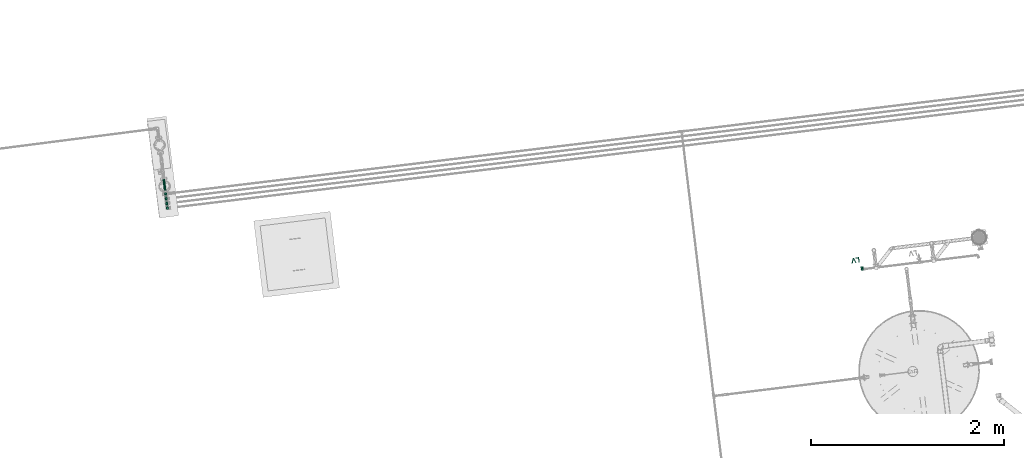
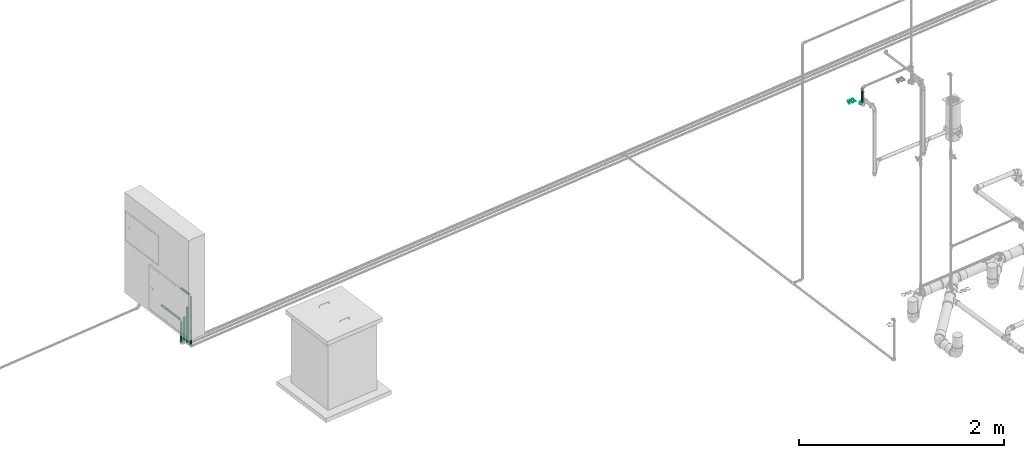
# One storey, part 49 of 97: 7 flow segments, 1 flow terminal.
"""IFC2X3 building model written with IfcOpenShell, lengths in centimetres."""

from ifc_helpers import new_model, entity, si_unit, converted_unit, derived_unit, direction, frame, frame_2d, origin, origin_2d_with_axis, place, context, subcontext, project, spatial, polyline, circle, outline, extrude, source, transform, mapped, material, material_list, type_object, type_shapes, element, save


model = new_model("IFC2X3")

# Units and contexts
model_context = context("Model", 3, precision=0.001, world=origin(), true_north=direction((6.12303176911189e-17, 1.0)))
body_context = subcontext(model_context, "Body", "Model", "MODEL_VIEW")
ifc_project = project(units=[si_unit("LENGTHUNIT", "METRE", prefix="CENTI"), si_unit("AREAUNIT", "SQUARE_METRE"), si_unit("VOLUMEUNIT", "CUBIC_METRE"), converted_unit("PLANEANGLEUNIT", "DEGREE", entity("IfcRatioMeasure", 0.0174532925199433), si_unit("PLANEANGLEUNIT", "RADIAN"), dimensions=[0, 0, 0, 0, 0, 0, 0]), si_unit("MASSUNIT", "GRAM", prefix="KILO"), derived_unit("MASSDENSITYUNIT", [(si_unit("MASSUNIT", "GRAM", prefix="KILO"), 1), (si_unit("LENGTHUNIT", "METRE"), -3)]), derived_unit("MOMENTOFINERTIAUNIT", [(si_unit("LENGTHUNIT", "METRE"), 4)]), si_unit("TIMEUNIT", "SECOND"), si_unit("FREQUENCYUNIT", "HERTZ"), si_unit("THERMODYNAMICTEMPERATUREUNIT", "DEGREE_CELSIUS"), derived_unit("THERMALTRANSMITTANCEUNIT", [(si_unit("MASSUNIT", "GRAM", prefix="KILO"), 1), (si_unit("THERMODYNAMICTEMPERATUREUNIT", "KELVIN"), -1), (si_unit("TIMEUNIT", "SECOND"), -3)]), derived_unit("VOLUMETRICFLOWRATEUNIT", [(si_unit("LENGTHUNIT", "METRE"), 3), (si_unit("TIMEUNIT", "SECOND"), -1)]), si_unit("ELECTRICCURRENTUNIT", "AMPERE"), si_unit("ELECTRICVOLTAGEUNIT", "VOLT"), si_unit("POWERUNIT", "WATT"), si_unit("FORCEUNIT", "NEWTON", prefix="KILO"), si_unit("ILLUMINANCEUNIT", "LUX"), si_unit("LUMINOUSFLUXUNIT", "LUMEN"), si_unit("LUMINOUSINTENSITYUNIT", "CANDELA"), derived_unit("USERDEFINED", [(si_unit("MASSUNIT", "GRAM", prefix="KILO"), -1), (si_unit("LENGTHUNIT", "METRE"), -2), (si_unit("TIMEUNIT", "SECOND"), 3), (si_unit("LUMINOUSFLUXUNIT", "LUMEN"), 1)]), derived_unit("LINEARVELOCITYUNIT", [(si_unit("LENGTHUNIT", "METRE"), 1), (si_unit("TIMEUNIT", "SECOND"), -1)]), si_unit("PRESSUREUNIT", "PASCAL"), derived_unit("USERDEFINED", [(si_unit("LENGTHUNIT", "METRE"), -2), (si_unit("MASSUNIT", "GRAM", prefix="KILO"), 1), (si_unit("TIMEUNIT", "SECOND"), -2)]), derived_unit("LINEARFORCEUNIT", [(si_unit("MASSUNIT", "GRAM", prefix="KILO"), 1), (si_unit("LENGTHUNIT", "METRE"), 1), (si_unit("TIMEUNIT", "SECOND"), -2), (si_unit("LENGTHUNIT", "METRE"), -1)]), derived_unit("PLANARFORCEUNIT", [(si_unit("MASSUNIT", "GRAM", prefix="KILO"), 1), (si_unit("LENGTHUNIT", "METRE"), 1), (si_unit("TIMEUNIT", "SECOND"), -2), (si_unit("LENGTHUNIT", "METRE"), -2)])], contexts=[model_context])

# Site, building, storey
site_placement = place(None, origin())
site = spatial("IfcSite", under=ifc_project, at=site_placement, Name="Default", CompositionType="ELEMENT")
building_placement = place(site_placement, origin())
building = spatial("IfcBuilding", under=site, at=building_placement, Name="HIDROSSANITÁRIO", CompositionType="ELEMENT")
storey_placement = place(building_placement, frame((0.0, 0.0, -260.0)))
storey = spatial("IfcBuildingStorey", under=building, at=storey_placement, Name="TÉRREO-HID", CompositionType="ELEMENT", Elevation=-260.0)

# Flow segments
pipe_segment_type = type_object("IfcPipeSegmentType", Name="Tipos de tubos:Tubo Marrom - Água Fria - Soldável", PredefinedType="NOTDEFINED")
flow_segment_1_placement = place(storey_placement, origin())
element("IfcFlowSegment", 1, at=flow_segment_1_placement, inside=storey, type_object=pipe_segment_type, Name="Tipos de tubos:Tubo Marrom - Água Fria - Soldável", ObjectType="Tipos de tubos:Tubo Marrom - Água Fria - Soldável", context=body_context, shape_type="SweptSolid", body=[
    extrude(circle(Radius=1.25, at=frame_2d((0.0, -4.33146851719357e-13), x_axis=(1.0, 0.0))), frame((-1714.61312594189, 3144.847077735, 61.63)), (0.0, 0.0, 1.0), 16.83),
])
flow_segment_2_placement = place(storey_placement, origin())
element("IfcFlowSegment", 2, at=flow_segment_2_placement, inside=storey, type_object=pipe_segment_type, Name="Tipos de tubos:Tubo Marrom - Água Fria - Soldável", ObjectType="Tipos de tubos:Tubo Marrom - Água Fria - Soldável", context=body_context, shape_type="SweptSolid", body=[
    extrude(circle(Radius=1.25, at=origin_2d_with_axis()), frame((-2437.40482807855, 3218.14198666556, -13.4600000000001)), (0.0, 0.0, 1.0), 27.9546769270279),
])
flow_segment_3_placement = place(storey_placement, origin())
element("IfcFlowSegment", 3, at=flow_segment_3_placement, inside=storey, type_object=pipe_segment_type, Name="Tipos de tubos:Tubo Marrom - Água Fria - Soldável", ObjectType="Tipos de tubos:Tubo Marrom - Água Fria - Soldável", context=body_context, shape_type="SweptSolid", body=[
    extrude(circle(Radius=1.25, at=origin_2d_with_axis()), frame((-2436.814062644, 3213.17701358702, -13.46)), (0.0, 0.0, 1.0), 42.9546769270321),
])
flow_segment_4_placement = place(storey_placement, origin())
element("IfcFlowSegment", 4, at=flow_segment_4_placement, inside=storey, type_object=pipe_segment_type, Name="Tipos de tubos:Tubo Marrom - Água Fria - Soldável", ObjectType="Tipos de tubos:Tubo Marrom - Água Fria - Soldável", context=body_context, shape_type="SweptSolid", body=[
    extrude(circle(Radius=1.25, at=origin_2d_with_axis()), frame((-2436.34236270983, 3209.79826009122, 46.0346769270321), z_axis=(-0.124024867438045, 0.992279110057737, 0.0), x_axis=(-0.992279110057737, -0.124024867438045, 0.0)), (0.0, 0.0, 1.0), 13.5780374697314),
])
flow_segment_5_placement = place(storey_placement, origin())
element("IfcFlowSegment", 5, at=flow_segment_5_placement, inside=storey, type_object=pipe_segment_type, Name="Tipos de tubos:Tubo Marrom - Água Fria - Soldável", ObjectType="Tipos de tubos:Tubo Marrom - Água Fria - Soldável", context=body_context, shape_type="SweptSolid", body=[
    extrude(circle(Radius=1.25, at=frame_2d((0.0, -4.33146851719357e-13), x_axis=(1.0, 0.0))), frame((-2436.15136441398, 3208.27015026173, -13.46)), (0.0, 0.0, 1.0), 57.9546769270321),
])
flow_segment_6_placement = place(storey_placement, origin())
element("IfcFlowSegment", 6, at=flow_segment_6_placement, inside=storey, type_object=pipe_segment_type, Name="Tipos de tubos:Tubo Marrom - Água Fria - Soldável", ObjectType="Tipos de tubos:Tubo Marrom - Água Fria - Soldável", context=body_context, shape_type="SweptSolid", body=[
    extrude(circle(Radius=1.25, at=origin_2d_with_axis()), frame((-2438.21798335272, 3224.69735658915, 7.94467692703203), z_axis=(-0.124024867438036, 0.992279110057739, 0.0), x_axis=(-0.992279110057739, -0.124024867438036, 0.0)), (0.0, 0.0, 1.0), 30.3507023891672),
])
flow_segment_7_placement = place(storey_placement, origin())
element("IfcFlowSegment", 7, at=flow_segment_7_placement, inside=storey, type_object=pipe_segment_type, Name="Tipos de tubos:Tubo Marrom - Água Fria - Soldável", ObjectType="Tipos de tubos:Tubo Marrom - Água Fria - Soldável", context=body_context, shape_type="SweptSolid", body=[
    extrude(circle(Radius=1.25, at=frame_2d((0.0, -4.33146851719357e-13), x_axis=(1.0, 0.0))), frame((-2438.02698505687, 3223.16924675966, -18.46)), (0.0, 0.0, 1.0), 24.864676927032),
])

# Flow terminal
ifc_material_1 = material(Name=".ID PONTOS DE CONSUMO")
ifc_material_2 = material(Name="<Unnamed>")
ifc_material_list_1 = material_list([ifc_material_1, ifc_material_2])
ifc_material_list_2 = material_list([ifc_material_1, ifc_material_1, ifc_material_2])
distribution_element_type = type_object("IfcDistributionElementType", Name="Pontos de Consumo :LAVATÓRIO", material=ifc_material_list_2)
shared_shape = source(origin(), body_context, "Body", "SweptSolid", [
    extrude(outline(polyline([(-1.25570387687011, -1.88355581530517), (1.88355581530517, -1.88355581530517), (1.88355581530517, -1.25570387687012), (-0.627851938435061, -1.25570387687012), (-0.627851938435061, 3.13925969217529), (-1.25570387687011, 3.13925969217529), (-1.25570387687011, -1.88355581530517)])), frame((-3.28228646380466, 9.11204229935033, 0.0), z_axis=(0.0, 0.0, 1.0), x_axis=(-1.0, 0.0, 0.0)), (0.0, 0.0, 1.0), 0.2),
    extrude(outline(polyline([(-0.291035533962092, -2.60978212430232), (0.357663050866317, -2.60978212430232), (2.27187569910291, 2.41303338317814), (1.59987792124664, 2.41303338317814), (0.258334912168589, -1.20569917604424), (-0.00899267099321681, -2.02117093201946), (-0.279999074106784, -1.20569917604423), (-1.61786326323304, 2.41303338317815), (-2.28986104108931, 2.41303338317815), (-0.291035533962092, -2.60978212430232)])), frame((-7.6470019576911, 8.3858159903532, 0.0), z_axis=(0.0, 0.0, 1.0), x_axis=(-1.0, 0.0, 0.0)), (0.0, 0.0, 1.0), 0.2),
    extrude(circle(Radius=1.25, at=frame_2d((-6.58881963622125e-17, -2.01943071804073e-15), x_axis=(1.0, 0.0))), frame((0.0, 0.0, 0.0), z_axis=(0.0, 1.0, 0.0), x_axis=(1.0, 0.0, 0.0)), (0.0, 0.0, 1.0), 1.0),
])
type_shapes(distribution_element_type, [shared_shape])
flow_terminal_placement = place(storey_placement, frame((-1714.81223439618, 3146.46487123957, 60.0), z_axis=(0.0, 0.0, 1.0), x_axis=(0.992511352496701, 0.122152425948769, 0.0)))
element("IfcFlowTerminal", 8, at=flow_terminal_placement, inside=storey, type_object=distribution_element_type, material=ifc_material_list_1, Name="Pontos de Consumo :LAVATÓRIO", ObjectType="Pontos de Consumo :LAVATÓRIO", context=body_context, shape_type="MappedRepresentation", body=[
    mapped(shared_shape, transform((0.0, 0.0, 0.0), scale=1.0)),
])

save(model, "model.ifc")
